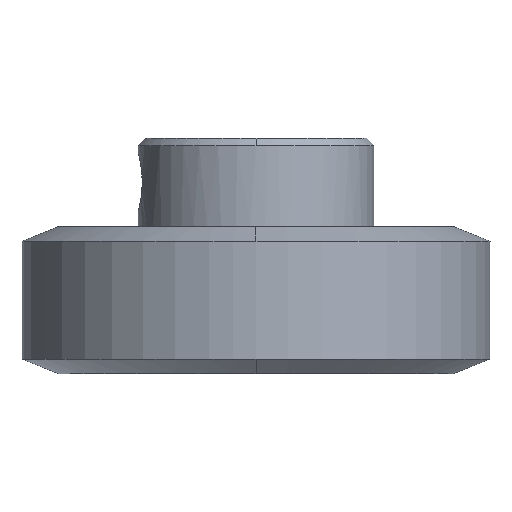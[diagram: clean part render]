
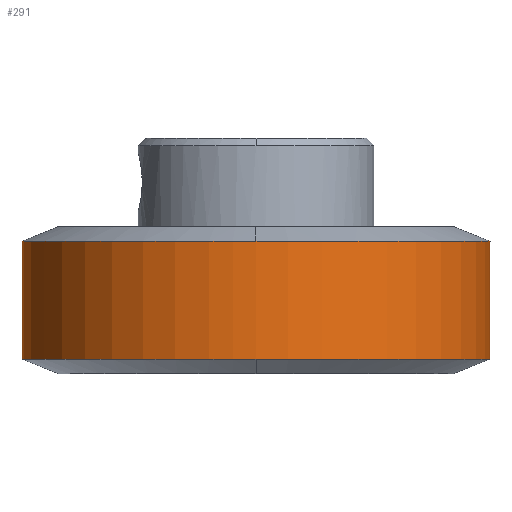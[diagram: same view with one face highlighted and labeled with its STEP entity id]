
A CAD part, front view. The second image highlights one B-rep face of the part: STEP entity #291.
In plain terms, the highlighted free-form (B-spline) face has degree [1, 3] with [2, 4] control points.
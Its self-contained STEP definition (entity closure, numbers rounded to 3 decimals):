
#2 = CARTESIAN_POINT ( 'NONE',  ( -15.9, 0., 9. ) ) ;
#48 = CARTESIAN_POINT ( 'NONE',  ( -15.9, -9.314, 9. ) ) ;
#55 = EDGE_CURVE ( 'NONE', #67, #737, #121, .T. ) ;
#67 = VERTEX_POINT ( 'NONE', #1107 ) ;
#84 = CARTESIAN_POINT ( 'NONE',  ( 15.9, -9.314, 9. ) ) ;
#87 = CARTESIAN_POINT ( 'NONE',  ( -15.9, 0., 9. ) ) ;
#121 =( BOUNDED_CURVE ( )  B_SPLINE_CURVE ( 3, ( #182, #1435, #317, #1701 ),
 .UNSPECIFIED., .F., .F. ) 
 B_SPLINE_CURVE_WITH_KNOTS ( ( 4, 4 ),
 ( 0., 1.571 ),
 .UNSPECIFIED. ) 
 CURVE ( )  GEOMETRIC_REPRESENTATION_ITEM ( )  RATIONAL_B_SPLINE_CURVE ( ( 1., 0.805, 0.805, 1. ) ) 
 REPRESENTATION_ITEM ( '' )  );
#150 = CARTESIAN_POINT ( 'NONE',  ( 15.9, -31.8, 1. ) ) ;
#182 = CARTESIAN_POINT ( 'NONE',  ( -15.9, 0., 1. ) ) ;
#230 = B_SPLINE_CURVE_WITH_KNOTS ( 'NONE', 1,
 ( #1252, #405 ),
 .UNSPECIFIED., .F., .F.,
 ( 2, 2 ),
 ( 0., 1. ),
 .UNSPECIFIED. ) ;
#237 = FACE_OUTER_BOUND ( 'NONE', #1694, .T. ) ;
#291 = ADVANCED_FACE ( 'NONE', ( #237 ), #1062, .F. ) ;
#317 = CARTESIAN_POINT ( 'NONE',  ( -9.314, -15.9, 1. ) ) ;
#383 = ORIENTED_EDGE ( 'NONE', *, *, #1185, .F. ) ;
#405 = CARTESIAN_POINT ( 'NONE',  ( 15.9, 0., 9. ) ) ;
#475 = VERTEX_POINT ( 'NONE', #1024 ) ;
#487 = CARTESIAN_POINT ( 'NONE',  ( 0., -15.9, 9. ) ) ;
#565 = CARTESIAN_POINT ( 'NONE',  ( -15.9, -31.8, 1. ) ) ;
#594 = CARTESIAN_POINT ( 'NONE',  ( 15.9, 0., 1. ) ) ;
#606 =( BOUNDED_CURVE ( )  B_SPLINE_CURVE ( 3, ( #487, #1608, #84, #1066 ),
 .UNSPECIFIED., .F., .T. ) 
 B_SPLINE_CURVE_WITH_KNOTS ( ( 4, 4 ),
 ( 1.571, 3.142 ),
 .UNSPECIFIED. ) 
 CURVE ( )  GEOMETRIC_REPRESENTATION_ITEM ( )  RATIONAL_B_SPLINE_CURVE ( ( 1., 0.805, 0.805, 1. ) ) 
 REPRESENTATION_ITEM ( '' )  );
#688 = CARTESIAN_POINT ( 'NONE',  ( 0., -15.9, 1. ) ) ;
#699 = CARTESIAN_POINT ( 'NONE',  ( 15.9, 0., 9. ) ) ;
#733 = CARTESIAN_POINT ( 'NONE',  ( -9.314, -15.9, 9. ) ) ;
#737 = VERTEX_POINT ( 'NONE', #1201 ) ;
#741 = EDGE_CURVE ( 'NONE', #1542, #67, #1164, .T. ) ;
#822 = CARTESIAN_POINT ( 'NONE',  ( -15.9, 0., 1. ) ) ;
#836 = CARTESIAN_POINT ( 'NONE',  ( -15.9, -31.8, 9. ) ) ;
#990 = CARTESIAN_POINT ( 'NONE',  ( 15.9, 0., 1. ) ) ;
#1012 = VERTEX_POINT ( 'NONE', #1406 ) ;
#1024 = CARTESIAN_POINT ( 'NONE',  ( 15.9, 0., 1. ) ) ;
#1033 = CARTESIAN_POINT ( 'NONE',  ( -15.9, 0., 9. ) ) ;
#1062 =( BOUNDED_SURFACE ( )  B_SPLINE_SURFACE ( 1, 3, ( 
 ( #822, #565, #150, #990 ),
 ( #2, #836, #1669, #699 ) ),
 .UNSPECIFIED., .F., .F., .F. ) 
 B_SPLINE_SURFACE_WITH_KNOTS ( ( 2, 2 ),
 ( 4, 4 ),
 ( 0.019, 0.981 ),
 ( 0., 1. ),
 .UNSPECIFIED. ) 
 GEOMETRIC_REPRESENTATION_ITEM ( )  RATIONAL_B_SPLINE_SURFACE ( (
 ( 1., 0.333, 0.333, 1.),
 ( 1., 0.333, 0.333, 1.) ) ) 
 REPRESENTATION_ITEM ( '' )  SURFACE ( )  );
#1066 = CARTESIAN_POINT ( 'NONE',  ( 15.9, 0., 9. ) ) ;
#1071 = CARTESIAN_POINT ( 'NONE',  ( 0., -15.9, 9. ) ) ;
#1107 = CARTESIAN_POINT ( 'NONE',  ( -15.9, 0., 1. ) ) ;
#1108 = CARTESIAN_POINT ( 'NONE',  ( -15.9, 0., 1. ) ) ;
#1164 = B_SPLINE_CURVE_WITH_KNOTS ( 'NONE', 1,
 ( #1334, #1108 ),
 .UNSPECIFIED., .F., .F.,
 ( 2, 2 ),
 ( 0., 1. ),
 .UNSPECIFIED. ) ;
#1185 = EDGE_CURVE ( 'NONE', #1232, #1012, #606, .T. ) ;
#1201 = CARTESIAN_POINT ( 'NONE',  ( 0., -15.9, 1. ) ) ;
#1232 = VERTEX_POINT ( 'NONE', #1071 ) ;
#1252 = CARTESIAN_POINT ( 'NONE',  ( 15.9, 0., 1. ) ) ;
#1275 = ORIENTED_EDGE ( 'NONE', *, *, #1313, .T. ) ;
#1306 = CARTESIAN_POINT ( 'NONE',  ( 9.314, -15.9, 1. ) ) ;
#1313 = EDGE_CURVE ( 'NONE', #737, #475, #1790, .T. ) ;
#1334 = CARTESIAN_POINT ( 'NONE',  ( -15.9, 0., 9. ) ) ;
#1406 = CARTESIAN_POINT ( 'NONE',  ( 15.9, 0., 9. ) ) ;
#1435 = CARTESIAN_POINT ( 'NONE',  ( -15.9, -9.314, 1. ) ) ;
#1440 = CARTESIAN_POINT ( 'NONE',  ( 15.9, -9.314, 1. ) ) ;
#1502 = EDGE_CURVE ( 'NONE', #1542, #1232, #1597, .T. ) ;
#1542 = VERTEX_POINT ( 'NONE', #87 ) ;
#1597 =( BOUNDED_CURVE ( )  B_SPLINE_CURVE ( 3, ( #1033, #48, #733, #1708 ),
 .UNSPECIFIED., .F., .T. ) 
 B_SPLINE_CURVE_WITH_KNOTS ( ( 4, 4 ),
 ( 0., 1.571 ),
 .UNSPECIFIED. ) 
 CURVE ( )  GEOMETRIC_REPRESENTATION_ITEM ( )  RATIONAL_B_SPLINE_CURVE ( ( 1., 0.805, 0.805, 1. ) ) 
 REPRESENTATION_ITEM ( '' )  );
#1608 = CARTESIAN_POINT ( 'NONE',  ( 9.314, -15.9, 9. ) ) ;
#1669 = CARTESIAN_POINT ( 'NONE',  ( 15.9, -31.8, 9. ) ) ;
#1671 = ORIENTED_EDGE ( 'NONE', *, *, #55, .T. ) ;
#1694 = EDGE_LOOP ( 'NONE', ( #1748, #1767, #1671, #1275, #1745, #383 ) ) ;
#1701 = CARTESIAN_POINT ( 'NONE',  ( 0., -15.9, 1. ) ) ;
#1708 = CARTESIAN_POINT ( 'NONE',  ( 0., -15.9, 9. ) ) ;
#1745 = ORIENTED_EDGE ( 'NONE', *, *, #1771, .T. ) ;
#1748 = ORIENTED_EDGE ( 'NONE', *, *, #1502, .F. ) ;
#1767 = ORIENTED_EDGE ( 'NONE', *, *, #741, .T. ) ;
#1771 = EDGE_CURVE ( 'NONE', #475, #1012, #230, .T. ) ;
#1790 =( BOUNDED_CURVE ( )  B_SPLINE_CURVE ( 3, ( #688, #1306, #1440, #594 ),
 .UNSPECIFIED., .F., .T. ) 
 B_SPLINE_CURVE_WITH_KNOTS ( ( 4, 4 ),
 ( 1.571, 3.142 ),
 .UNSPECIFIED. ) 
 CURVE ( )  GEOMETRIC_REPRESENTATION_ITEM ( )  RATIONAL_B_SPLINE_CURVE ( ( 1., 0.805, 0.805, 1. ) ) 
 REPRESENTATION_ITEM ( '' )  );
